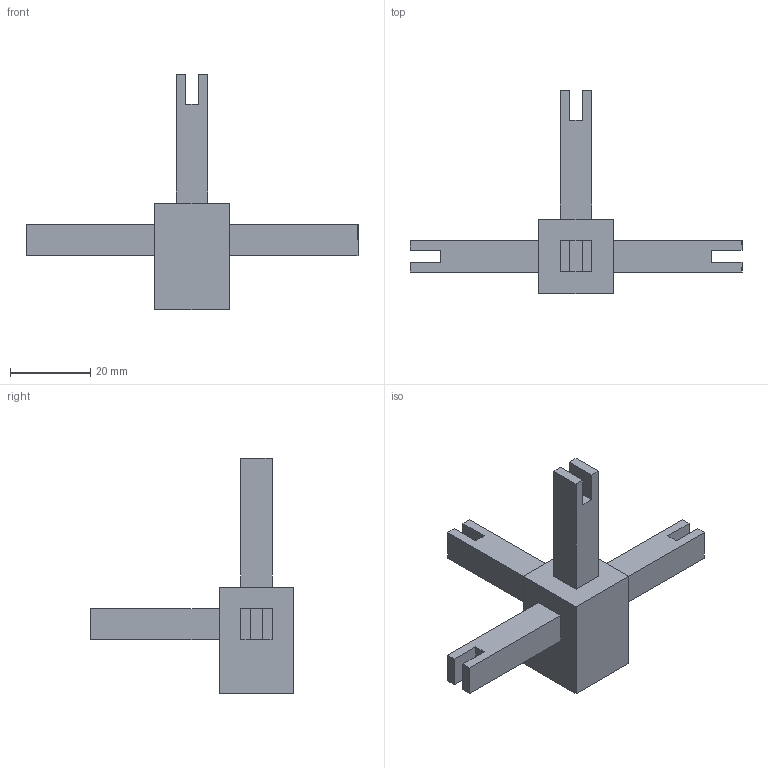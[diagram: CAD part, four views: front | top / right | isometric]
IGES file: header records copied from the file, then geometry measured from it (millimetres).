
Start section: Data from Parasolid IGES Translator 20.0.26, Copyright(c) 2006 Siemens P LM Software. All Rights Reserved.
Global section: file name: 9298835.igs; native system: By Siemens PLM Incorporated; preprocessor: XPlus GENERIC/IGES 20.0.26; author: Noname; organization: Noname; date: 20210831.150247; units: millimetre
Bounding box: 82.5 x 50.5 x 58.5 mm (x, y, z)
Surface area: 6927.1 mm2 (no closed solid volume)
Topology: 0 solids, 0 shells, 42 faces, 216 edges, 216 vertices
Faces by surface type: extrusion 42
